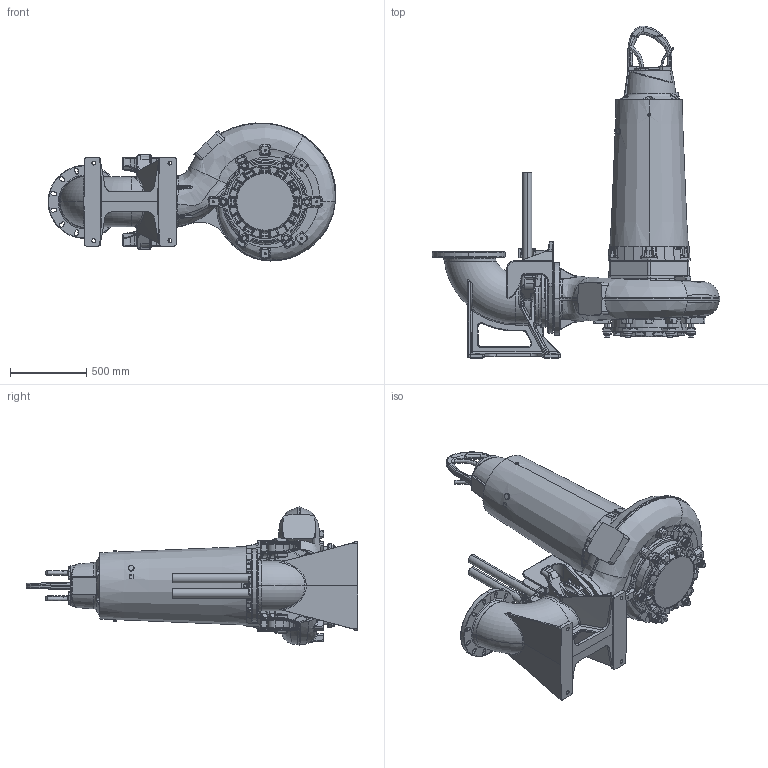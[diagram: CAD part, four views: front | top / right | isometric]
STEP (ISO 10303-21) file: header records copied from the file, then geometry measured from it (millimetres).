
FILE_DESCRIPTION (( 'STEP AP214' ), '1' );
FILE_NAME ('PE5_XFP305M-CB2_WET 2guide_B_NG2.STEP', '2017-03-13T08:12:08', ( '' ), ( '' ), 'SwSTEP 2.0', 'SolidWorks 2017', '' );
FILE_SCHEMA (( 'AUTOMOTIVE_DESIGN' ));
Length unit declared in the file: millimetre
Products named in the file (1): PE5_XFP305M-CB2_WET 2guide_B_NG2
Bounding box: 1889.63 x 2179.99 x 906.41 mm (x, y, z)
Volume: 99183395.4 mm3; surface area: 8964657.2 mm2
Topology: 30 solids, 31 shells, 4856 faces, 11963 edges, 7076 vertices
Faces by surface type: bspline 1459, cylinder 1315, plane 1018, torus 471, cone 450, sphere 143
Entity records: 292071 total; most frequent: CARTESIAN_POINT 136939, ORIENTED_EDGE 23496, DIRECTION 18457, EDGE_CURVE 11748, AXIS2_PLACEMENT_3D 7493, VERTEX_POINT 7068, EDGE_LOOP 5116, UNCERTAINTY_MEASURE_WITH_UNIT 4863
